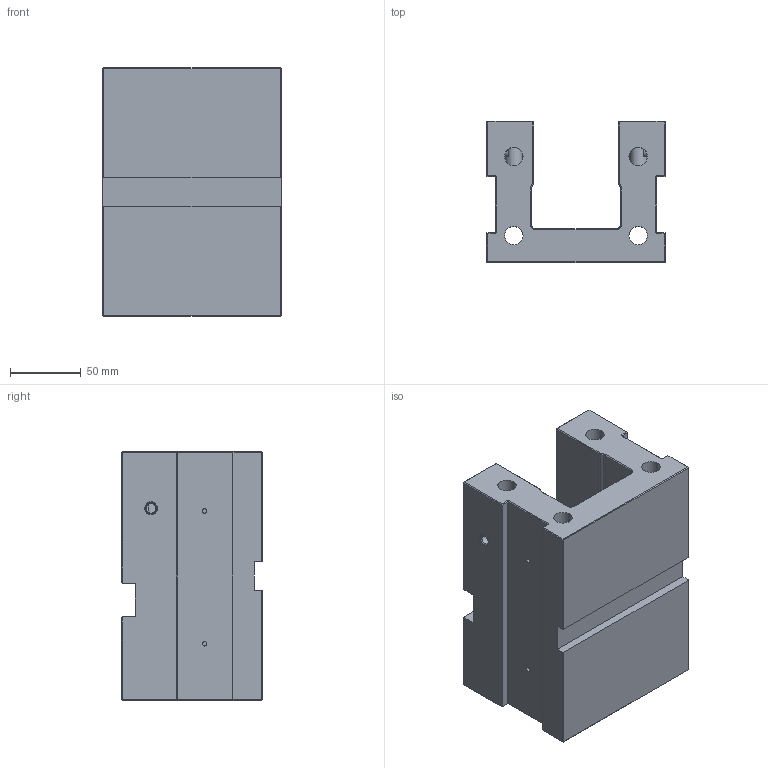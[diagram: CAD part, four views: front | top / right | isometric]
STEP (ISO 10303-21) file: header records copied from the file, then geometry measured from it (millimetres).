
FILE_DESCRIPTION((''),'2;1');
FILE_NAME('FG_VC_HIPR_C0068NP001','2026-03-16T11:39:32',('Admin'),(''),'CREO PARAMETRIC BY PTC INC, 2025010','CREO PARAMETRIC BY PTC INC, 2025010','');
FILE_SCHEMA(('CONFIG_CONTROL_DESIGN'));
Length unit declared in the file: millimetre
Products named in the file (1): FG_VC_HIPR_C0068NP001
Bounding box: 126 x 100 x 176 mm (x, y, z)
Volume: 1063727.3 mm3; surface area: 178136.8 mm2
Topology: 1 solids, 9 shells, 241 faces, 627 edges, 402 vertices
Faces by surface type: plane 116, cylinder 79, cone 42, bspline 4
Entity records: 7916 total; most frequent: CARTESIAN_POINT 1916, DIRECTION 1245, ORIENTED_EDGE 1190, EDGE_CURVE 615, AXIS2_PLACEMENT_3D 435, VERTEX_POINT 402, VECTOR 375, LINE 375
